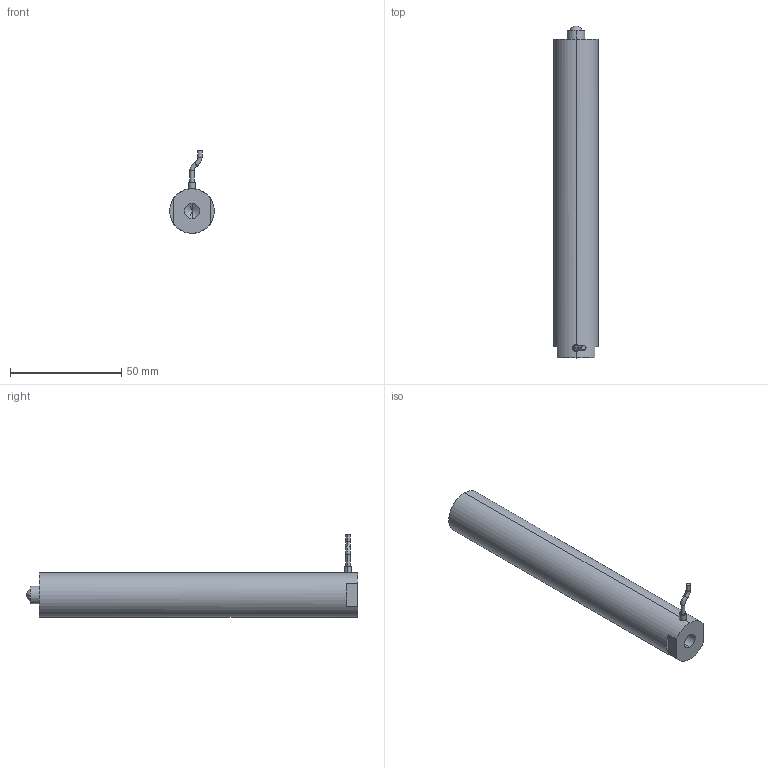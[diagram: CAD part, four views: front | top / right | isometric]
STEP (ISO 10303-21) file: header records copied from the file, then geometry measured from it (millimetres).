
FILE_DESCRIPTION (( 'STEP AP203' ), '1' );
FILE_NAME ('球头式140VS20.STEP', '2021-07-08T05:55:02', ( '微软用户' ), ( '微软公司' ), 'SwSTEP 2.0', 'SolidWorks 2016', '' );
FILE_SCHEMA (( 'CONFIG_CONTROL_DESIGN' ));
Products named in the file (1): ⑩芛宒140VS20
Bounding box: 20 x 149 x 37.06 mm (x, y, z)
Volume: 44702.3 mm3; surface area: 10085.7 mm2
Topology: 1 solids, 1 shells, 942 faces, 2549 edges, 1694 vertices
Faces by surface type: bspline 513, plane 316, cylinder 105, torus 4, sphere 2, cone 2
Entity records: 44771 total; most frequent: CARTESIAN_POINT 25624, ORIENTED_EDGE 5086, EDGE_CURVE 2543, DIRECTION 1982, B_SPLINE_CURVE_WITH_KNOTS 1699, VERTEX_POINT 1692, EDGE_LOOP 1031, ADVANCED_FACE 942
